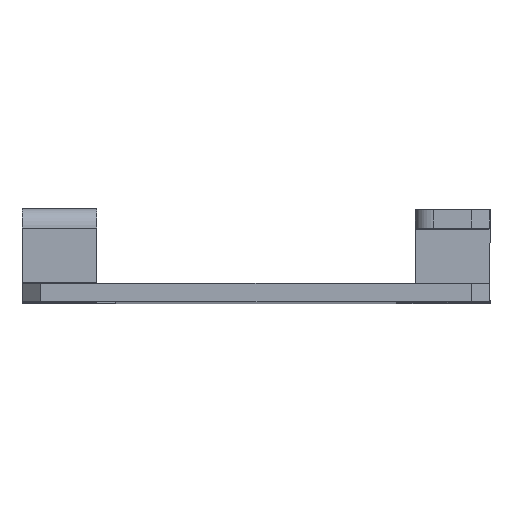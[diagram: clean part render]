
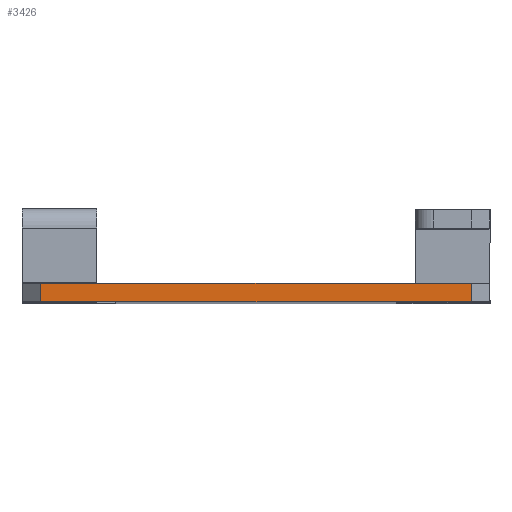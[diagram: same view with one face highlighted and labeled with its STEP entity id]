
A CAD part, top view. The second image highlights one B-rep face of the part: STEP entity #3426.
In plain terms, the highlighted planar face has unit normal (0, 0, 1).
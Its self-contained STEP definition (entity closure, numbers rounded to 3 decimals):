
#44 = VERTEX_POINT ( 'NONE', #5200 ) ;
#583 = VECTOR ( 'NONE', #2050, 1000. ) ;
#690 = DIRECTION ( 'NONE',  ( 1., 0., 0. ) ) ;
#800 = ORIENTED_EDGE ( 'NONE', *, *, #2657, .T. ) ;
#982 = DIRECTION ( 'NONE',  ( 1., 0., 0. ) ) ;
#1194 = CARTESIAN_POINT ( 'NONE',  ( -21.5, 0., 3.5 ) ) ;
#1231 = DIRECTION ( 'NONE',  ( 1., 0., 0. ) ) ;
#1535 = LINE ( 'NONE', #5699, #1655 ) ;
#1655 = VECTOR ( 'NONE', #982, 1000. ) ;
#2050 = DIRECTION ( 'NONE',  ( 0., 1., 0. ) ) ;
#2657 = EDGE_CURVE ( 'NONE', #4707, #44, #7500, .T. ) ;
#2892 = DIRECTION ( 'NONE',  ( 0., -1., 0. ) ) ;
#3053 = DIRECTION ( 'NONE',  ( 0., 0., 1. ) ) ;
#3095 = EDGE_CURVE ( 'NONE', #4707, #3424, #1535, .T. ) ;
#3130 = CARTESIAN_POINT ( 'NONE',  ( 1.5, 2., 3.5 ) ) ;
#3140 = VECTOR ( 'NONE', #1231, 1000. ) ;
#3199 = EDGE_LOOP ( 'NONE', ( #5642, #800, #7145, #6422 ) ) ;
#3424 = VERTEX_POINT ( 'NONE', #6854 ) ;
#3426 = ADVANCED_FACE ( 'NONE', ( #7598 ), #5612, .T. ) ;
#3518 = EDGE_CURVE ( 'NONE', #44, #4498, #6570, .T. ) ;
#4498 = VERTEX_POINT ( 'NONE', #4691 ) ;
#4691 = CARTESIAN_POINT ( 'NONE',  ( 1.5, 0., 3.5 ) ) ;
#4707 = VERTEX_POINT ( 'NONE', #6326 ) ;
#5200 = CARTESIAN_POINT ( 'NONE',  ( -44.5, 0., 3.5 ) ) ;
#5535 = LINE ( 'NONE', #3130, #583 ) ;
#5612 = PLANE ( 'NONE',  #6476 ) ;
#5642 = ORIENTED_EDGE ( 'NONE', *, *, #3095, .F. ) ;
#5699 = CARTESIAN_POINT ( 'NONE',  ( -46.5, 2., 3.5 ) ) ;
#6326 = CARTESIAN_POINT ( 'NONE',  ( -44.5, 2., 3.5 ) ) ;
#6375 = CARTESIAN_POINT ( 'NONE',  ( -46.5, 2., 3.5 ) ) ;
#6422 = ORIENTED_EDGE ( 'NONE', *, *, #6468, .T. ) ;
#6468 = EDGE_CURVE ( 'NONE', #4498, #3424, #5535, .T. ) ;
#6476 = AXIS2_PLACEMENT_3D ( 'NONE', #6375, #3053, #690 ) ;
#6570 = LINE ( 'NONE', #1194, #3140 ) ;
#6854 = CARTESIAN_POINT ( 'NONE',  ( 1.5, 2., 3.5 ) ) ;
#7026 = CARTESIAN_POINT ( 'NONE',  ( -44.5, 2., 3.5 ) ) ;
#7099 = VECTOR ( 'NONE', #2892, 1000. ) ;
#7145 = ORIENTED_EDGE ( 'NONE', *, *, #3518, .T. ) ;
#7500 = LINE ( 'NONE', #7026, #7099 ) ;
#7598 = FACE_OUTER_BOUND ( 'NONE', #3199, .T. ) ;
